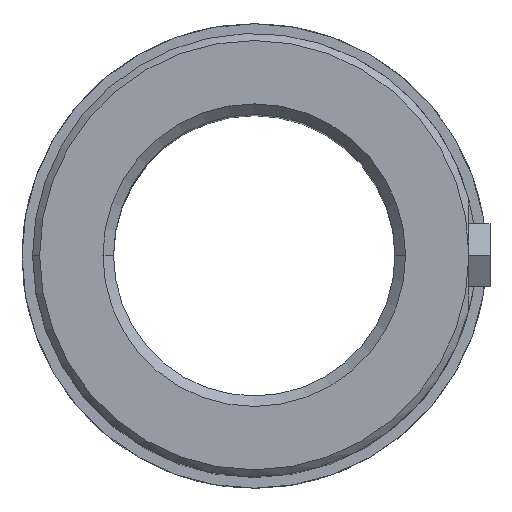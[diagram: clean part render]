
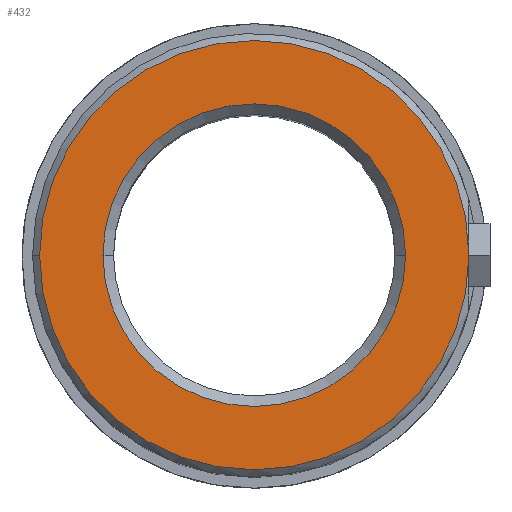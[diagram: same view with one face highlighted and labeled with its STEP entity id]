
A CAD part, top view. The second image highlights one B-rep face of the part: STEP entity #432.
In plain terms, the highlighted planar face has unit normal (0, 0, 1).
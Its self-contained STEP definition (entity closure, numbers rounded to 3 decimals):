
#314=CARTESIAN_POINT('Axis2P3D Location',(0.,0.,71.)) ;
#318=CARTESIAN_POINT('Vertex',(21.5,0.,71.)) ;
#320=CARTESIAN_POINT('Vertex',(-21.5,0.,71.)) ;
#376=CARTESIAN_POINT('Axis2P3D Location',(0.,0.,71.)) ;
#405=CARTESIAN_POINT('Axis2P3D Location',(21.5,0.,71.)) ;
#410=CARTESIAN_POINT('Axis2P3D Location',(0.,0.,71.)) ;
#414=CARTESIAN_POINT('Vertex',(30.5,0.,71.)) ;
#416=CARTESIAN_POINT('Vertex',(-30.5,0.,71.)) ;
#419=CARTESIAN_POINT('Axis2P3D Location',(0.,0.,71.)) ;
#315=DIRECTION('Axis2P3D Direction',(0.,-0.,1.)) ;
#377=DIRECTION('Axis2P3D Direction',(0.,-0.,1.)) ;
#406=DIRECTION('Axis2P3D Direction',(0.,-0.,1.)) ;
#407=DIRECTION('Axis2P3D XDirection',(1.,0.,0.)) ;
#411=DIRECTION('Axis2P3D Direction',(0.,-0.,1.)) ;
#420=DIRECTION('Axis2P3D Direction',(0.,-0.,1.)) ;
#316=AXIS2_PLACEMENT_3D('Circle Axis2P3D',#314,#315,$) ;
#378=AXIS2_PLACEMENT_3D('Circle Axis2P3D',#376,#377,$) ;
#408=AXIS2_PLACEMENT_3D('Plane Axis2P3D',#405,#406,#407) ;
#412=AXIS2_PLACEMENT_3D('Circle Axis2P3D',#410,#411,$) ;
#421=AXIS2_PLACEMENT_3D('Circle Axis2P3D',#419,#420,$) ;
#425=ORIENTED_EDGE('',*,*,#418,.T.) ;
#426=ORIENTED_EDGE('',*,*,#423,.T.) ;
#429=ORIENTED_EDGE('',*,*,#380,.F.) ;
#430=ORIENTED_EDGE('',*,*,#322,.F.) ;
#431=FACE_BOUND('',#428,.T.) ;
#432=ADVANCED_FACE('742-40',(#427,#431),#409,.T.) ;
#317=CIRCLE('generated circle',#316,21.5) ;
#379=CIRCLE('generated circle',#378,21.5) ;
#413=CIRCLE('generated circle',#412,30.5) ;
#422=CIRCLE('generated circle',#421,30.5) ;
#322=EDGE_CURVE('',#319,#321,#317,.T.) ;
#380=EDGE_CURVE('',#321,#319,#379,.T.) ;
#418=EDGE_CURVE('',#415,#417,#413,.T.) ;
#423=EDGE_CURVE('',#417,#415,#422,.T.) ;
#424=EDGE_LOOP('',(#425,#426)) ;
#428=EDGE_LOOP('',(#429,#430)) ;
#427=FACE_OUTER_BOUND('',#424,.T.) ;
#409=PLANE('Plane',#408) ;
#319=VERTEX_POINT('',#318) ;
#321=VERTEX_POINT('',#320) ;
#415=VERTEX_POINT('',#414) ;
#417=VERTEX_POINT('',#416) ;
